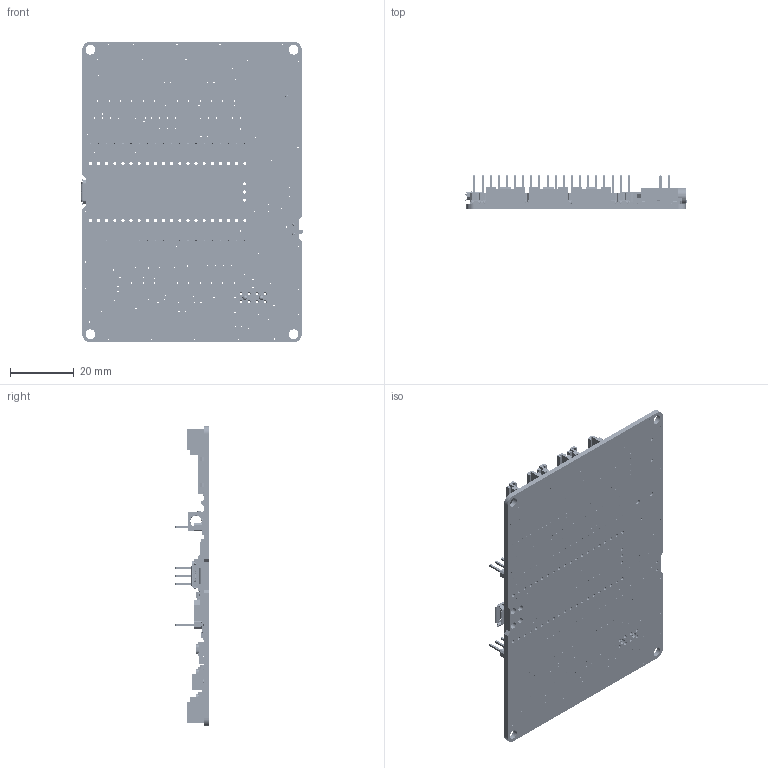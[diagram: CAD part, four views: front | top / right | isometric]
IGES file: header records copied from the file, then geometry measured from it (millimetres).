
Start section: SolidWorks IGES file using analytic representation for surfaces
Global section: file name: D:\Cytron\Technical\MAKER-PI-PICO\maker-pi-pico\Mechanical CAD\3D CAD - MAKER-PI-PICO\MAKER-PI-PICO.IGS; native system: SolidWorks 2015; preprocessor: SolidWorks 2015; author: DIANMIAO; date: 210625.162236; units: millimetre
Bounding box: 69.1 x 10.57 x 93.98 mm (x, y, z)
Surface area: 27764.9 mm2 (no closed solid volume)
Topology: 0 solids, 0 shells, 13287 faces, 88880 edges, 87928 vertices
Faces by surface type: bspline 10258, revolution 3029
